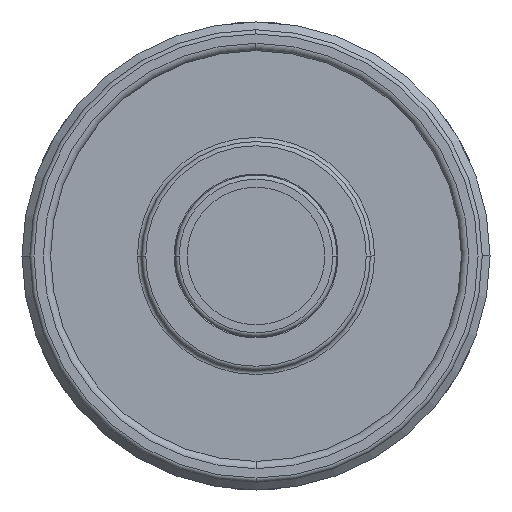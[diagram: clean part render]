
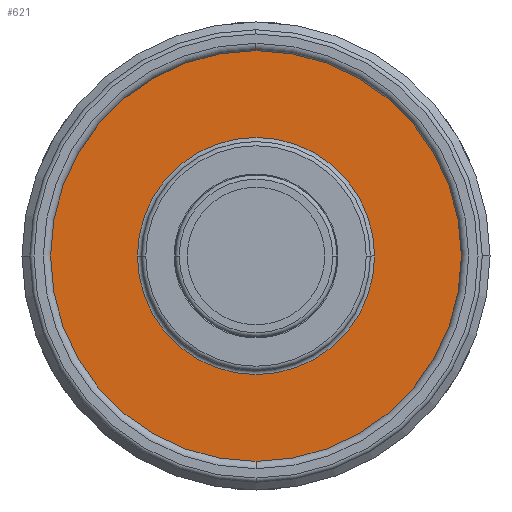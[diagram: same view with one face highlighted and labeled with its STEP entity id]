
A CAD part, front view. The second image highlights one B-rep face of the part: STEP entity #621.
In plain terms, the highlighted planar face has unit normal (0, -1, 0).
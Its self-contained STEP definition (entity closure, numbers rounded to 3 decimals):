
#244=PLANE('',#2589);
#286=FACE_BOUND('',#942,.T.);
#287=FACE_BOUND('',#943,.T.);
#621=ADVANCED_FACE('',(#286,#287),#244,.F.);
#942=EDGE_LOOP('',(#1461,#1462));
#943=EDGE_LOOP('',(#1463,#1464));
#1461=ORIENTED_EDGE('',*,*,#2061,.T.);
#1462=ORIENTED_EDGE('',*,*,#2033,.T.);
#1463=ORIENTED_EDGE('',*,*,#2062,.T.);
#1464=ORIENTED_EDGE('',*,*,#2041,.T.);
#1763=VERTEX_POINT('',#4112);
#1764=VERTEX_POINT('',#4113);
#1771=VERTEX_POINT('',#4130);
#1772=VERTEX_POINT('',#4131);
#2033=EDGE_CURVE('',#1763,#1764,#2260,.T.);
#2041=EDGE_CURVE('',#1771,#1772,#2268,.T.);
#2061=EDGE_CURVE('',#1764,#1763,#2282,.T.);
#2062=EDGE_CURVE('',#1772,#1771,#2283,.T.);
#2260=CIRCLE('',#2552,11.4);
#2268=CIRCLE('',#2562,21.4);
#2282=CIRCLE('',#2587,11.4);
#2283=CIRCLE('',#2588,21.4);
#2552=AXIS2_PLACEMENT_3D('',#4111,#3214,#3215);
#2562=AXIS2_PLACEMENT_3D('',#4129,#3234,#3235);
#2587=AXIS2_PLACEMENT_3D('',#4166,#3290,#3291);
#2588=AXIS2_PLACEMENT_3D('',#4167,#3292,#3293);
#2589=AXIS2_PLACEMENT_3D('',#4168,#3294,#3295);
#3214=DIRECTION('',(0.,1.,0.));
#3215=DIRECTION('',(-1.,0.,0.));
#3234=DIRECTION('',(0.,-1.,0.));
#3235=DIRECTION('',(-1.,0.,0.));
#3290=DIRECTION('',(0.,1.,0.));
#3291=DIRECTION('',(-1.,0.,0.));
#3292=DIRECTION('',(0.,-1.,0.));
#3293=DIRECTION('',(-1.,0.,0.));
#3294=DIRECTION('',(0.,1.,0.));
#3295=DIRECTION('',(1.,0.,0.));
#4111=CARTESIAN_POINT('',(0.,21.6,0.));
#4112=CARTESIAN_POINT('',(11.4,21.6,0.));
#4113=CARTESIAN_POINT('',(-11.4,21.6,0.));
#4129=CARTESIAN_POINT('',(0.,21.6,0.));
#4130=CARTESIAN_POINT('',(21.4,21.6,0.));
#4131=CARTESIAN_POINT('',(-21.4,21.6,0.));
#4166=CARTESIAN_POINT('',(0.,21.6,0.));
#4167=CARTESIAN_POINT('',(0.,21.6,0.));
#4168=CARTESIAN_POINT('',(21.6,21.6,0.));
